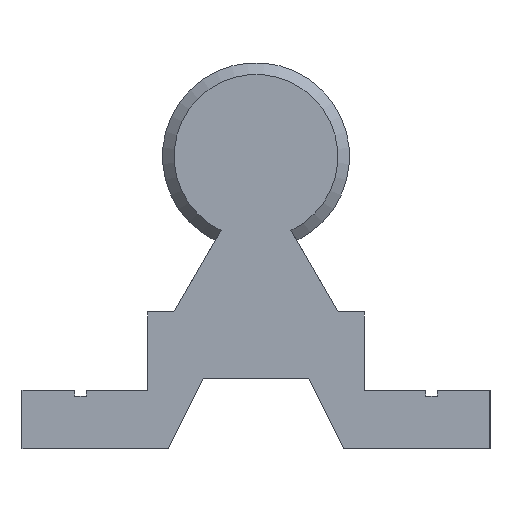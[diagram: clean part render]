
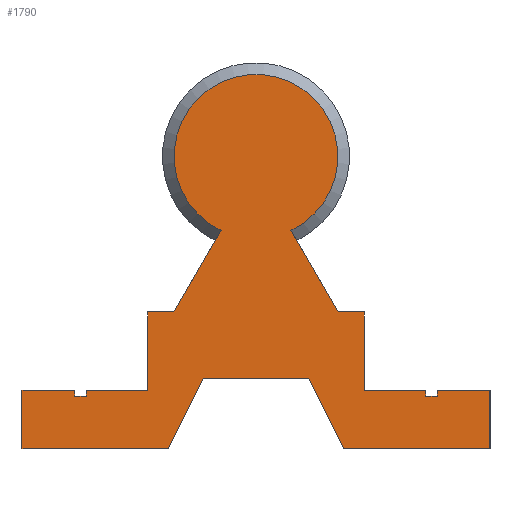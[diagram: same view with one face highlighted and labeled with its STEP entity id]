
A CAD part, left-side view. The second image highlights one B-rep face of the part: STEP entity #1790.
In plain terms, the highlighted planar face has unit normal (-1, 0, 0).
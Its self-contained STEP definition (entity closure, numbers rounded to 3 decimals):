
#40=LINE('',#2653,#186);
#41=LINE('',#2655,#187);
#42=LINE('',#2657,#188);
#43=LINE('',#2659,#189);
#44=LINE('',#2661,#190);
#45=LINE('',#2663,#191);
#46=LINE('',#2665,#192);
#47=LINE('',#2667,#193);
#48=LINE('',#2669,#194);
#49=LINE('',#2671,#195);
#50=LINE('',#2673,#196);
#51=LINE('',#2675,#197);
#52=LINE('',#2677,#198);
#53=LINE('',#2679,#199);
#54=LINE('',#2681,#200);
#55=LINE('',#2683,#201);
#56=LINE('',#2685,#202);
#57=LINE('',#2687,#203);
#58=LINE('',#2689,#204);
#59=LINE('',#2691,#205);
#60=LINE('',#2693,#206);
#61=LINE('',#2695,#207);
#62=LINE('',#2696,#208);
#186=VECTOR('',#2107,10.);
#187=VECTOR('',#2108,10.);
#188=VECTOR('',#2109,10.);
#189=VECTOR('',#2110,10.);
#190=VECTOR('',#2111,10.);
#191=VECTOR('',#2112,10.);
#192=VECTOR('',#2113,10.);
#193=VECTOR('',#2114,10.);
#194=VECTOR('',#2115,10.);
#195=VECTOR('',#2116,10.);
#196=VECTOR('',#2117,10.);
#197=VECTOR('',#2118,10.);
#198=VECTOR('',#2119,10.);
#199=VECTOR('',#2120,10.);
#200=VECTOR('',#2121,10.);
#201=VECTOR('',#2122,10.);
#202=VECTOR('',#2123,10.);
#203=VECTOR('',#2124,10.);
#204=VECTOR('',#2125,10.);
#205=VECTOR('',#2126,10.);
#206=VECTOR('',#2127,10.);
#207=VECTOR('',#2128,10.);
#208=VECTOR('',#2129,10.);
#332=PLANE('',#1904);
#394=FACE_OUTER_BOUND('',#486,.T.);
#486=EDGE_LOOP('',(#1203,#1204,#1205,#1206,#1207,#1208,#1209,#1210,#1211,
#1212,#1213,#1214,#1215,#1216,#1217,#1218,#1219,#1220,#1221,#1222,#1223,
#1224,#1225,#1226));
#589=CIRCLE('',#1902,7.);
#730=VERTEX_POINT('',#2640);
#731=VERTEX_POINT('',#2644);
#733=VERTEX_POINT('',#2652);
#734=VERTEX_POINT('',#2654);
#735=VERTEX_POINT('',#2656);
#736=VERTEX_POINT('',#2658);
#737=VERTEX_POINT('',#2660);
#738=VERTEX_POINT('',#2662);
#739=VERTEX_POINT('',#2664);
#740=VERTEX_POINT('',#2666);
#741=VERTEX_POINT('',#2668);
#742=VERTEX_POINT('',#2670);
#743=VERTEX_POINT('',#2672);
#744=VERTEX_POINT('',#2674);
#745=VERTEX_POINT('',#2676);
#746=VERTEX_POINT('',#2678);
#747=VERTEX_POINT('',#2680);
#748=VERTEX_POINT('',#2682);
#749=VERTEX_POINT('',#2684);
#750=VERTEX_POINT('',#2686);
#751=VERTEX_POINT('',#2688);
#752=VERTEX_POINT('',#2690);
#753=VERTEX_POINT('',#2692);
#754=VERTEX_POINT('',#2694);
#914=EDGE_CURVE('',#730,#731,#589,.T.);
#917=EDGE_CURVE('',#731,#733,#40,.T.);
#918=EDGE_CURVE('',#734,#730,#41,.T.);
#919=EDGE_CURVE('',#735,#734,#42,.T.);
#920=EDGE_CURVE('',#736,#735,#43,.T.);
#921=EDGE_CURVE('',#737,#736,#44,.T.);
#922=EDGE_CURVE('',#738,#737,#45,.T.);
#923=EDGE_CURVE('',#739,#738,#46,.T.);
#924=EDGE_CURVE('',#740,#739,#47,.T.);
#925=EDGE_CURVE('',#741,#740,#48,.T.);
#926=EDGE_CURVE('',#742,#741,#49,.T.);
#927=EDGE_CURVE('',#743,#742,#50,.T.);
#928=EDGE_CURVE('',#744,#743,#51,.T.);
#929=EDGE_CURVE('',#745,#744,#52,.T.);
#930=EDGE_CURVE('',#746,#745,#53,.T.);
#931=EDGE_CURVE('',#747,#746,#54,.T.);
#932=EDGE_CURVE('',#748,#747,#55,.T.);
#933=EDGE_CURVE('',#749,#748,#56,.T.);
#934=EDGE_CURVE('',#750,#749,#57,.T.);
#935=EDGE_CURVE('',#751,#750,#58,.T.);
#936=EDGE_CURVE('',#752,#751,#59,.T.);
#937=EDGE_CURVE('',#753,#752,#60,.T.);
#938=EDGE_CURVE('',#754,#753,#61,.T.);
#939=EDGE_CURVE('',#733,#754,#62,.T.);
#1203=ORIENTED_EDGE('',*,*,#917,.F.);
#1204=ORIENTED_EDGE('',*,*,#914,.F.);
#1205=ORIENTED_EDGE('',*,*,#918,.F.);
#1206=ORIENTED_EDGE('',*,*,#919,.F.);
#1207=ORIENTED_EDGE('',*,*,#920,.F.);
#1208=ORIENTED_EDGE('',*,*,#921,.F.);
#1209=ORIENTED_EDGE('',*,*,#922,.F.);
#1210=ORIENTED_EDGE('',*,*,#923,.F.);
#1211=ORIENTED_EDGE('',*,*,#924,.F.);
#1212=ORIENTED_EDGE('',*,*,#925,.F.);
#1213=ORIENTED_EDGE('',*,*,#926,.F.);
#1214=ORIENTED_EDGE('',*,*,#927,.F.);
#1215=ORIENTED_EDGE('',*,*,#928,.F.);
#1216=ORIENTED_EDGE('',*,*,#929,.F.);
#1217=ORIENTED_EDGE('',*,*,#930,.F.);
#1218=ORIENTED_EDGE('',*,*,#931,.F.);
#1219=ORIENTED_EDGE('',*,*,#932,.F.);
#1220=ORIENTED_EDGE('',*,*,#933,.F.);
#1221=ORIENTED_EDGE('',*,*,#934,.F.);
#1222=ORIENTED_EDGE('',*,*,#935,.F.);
#1223=ORIENTED_EDGE('',*,*,#936,.F.);
#1224=ORIENTED_EDGE('',*,*,#937,.F.);
#1225=ORIENTED_EDGE('',*,*,#938,.F.);
#1226=ORIENTED_EDGE('',*,*,#939,.F.);
#1790=ADVANCED_FACE('',(#394),#332,.F.);
#1902=AXIS2_PLACEMENT_3D('',#2645,#2101,#2102);
#1904=AXIS2_PLACEMENT_3D('',#2651,#2105,#2106);
#2101=DIRECTION('center_axis',(1.,0.,0.));
#2102=DIRECTION('ref_axis',(0.,1.,0.));
#2105=DIRECTION('center_axis',(1.,0.,0.));
#2106=DIRECTION('ref_axis',(0.,0.,-1.));
#2107=DIRECTION('',(0.,-0.5,-0.866));
#2108=DIRECTION('',(0.,-0.5,0.866));
#2109=DIRECTION('',(0.,-1.,0.));
#2110=DIRECTION('',(0.,0.,1.));
#2111=DIRECTION('',(0.,-1.,0.));
#2112=DIRECTION('',(0.,0.,1.));
#2113=DIRECTION('',(0.,-1.,0.));
#2114=DIRECTION('',(0.,0.,-1.));
#2115=DIRECTION('',(0.,-1.,0.));
#2116=DIRECTION('',(0.,0.,1.));
#2117=DIRECTION('',(0.,1.,0.));
#2118=DIRECTION('',(0.,0.447,-0.894));
#2119=DIRECTION('',(0.,1.,0.));
#2120=DIRECTION('',(0.,0.447,0.894));
#2121=DIRECTION('',(0.,1.,0.));
#2122=DIRECTION('',(0.,0.,-1.));
#2123=DIRECTION('',(0.,-1.,0.));
#2124=DIRECTION('',(0.,0.,1.));
#2125=DIRECTION('',(0.,-1.,0.));
#2126=DIRECTION('',(0.,0.,-1.));
#2127=DIRECTION('',(0.,-1.,0.));
#2128=DIRECTION('',(0.,0.,-1.));
#2129=DIRECTION('',(0.,-1.,0.));
#2640=CARTESIAN_POINT('',(0.,2.986,18.669));
#2644=CARTESIAN_POINT('',(0.,-2.986,18.669));
#2645=CARTESIAN_POINT('Origin',(0.,0.,25.));
#2651=CARTESIAN_POINT('Origin',(0.,0.,25.));
#2652=CARTESIAN_POINT('',(0.,-7.009,11.7));
#2653=CARTESIAN_POINT('',(0.,-1.492,21.255));
#2654=CARTESIAN_POINT('',(0.,7.009,11.7));
#2655=CARTESIAN_POINT('',(0.,3.253,18.205));
#2656=CARTESIAN_POINT('',(0.,9.25,11.7));
#2657=CARTESIAN_POINT('',(0.,9.25,11.7));
#2658=CARTESIAN_POINT('',(0.,9.25,5.));
#2659=CARTESIAN_POINT('',(0.,9.25,5.));
#2660=CARTESIAN_POINT('',(0.,14.5,5.));
#2661=CARTESIAN_POINT('',(0.,14.5,5.));
#2662=CARTESIAN_POINT('',(0.,14.5,4.5));
#2663=CARTESIAN_POINT('',(0.,14.5,4.5));
#2664=CARTESIAN_POINT('',(0.,15.5,4.5));
#2665=CARTESIAN_POINT('',(0.,15.5,4.5));
#2666=CARTESIAN_POINT('',(0.,15.5,5.));
#2667=CARTESIAN_POINT('',(0.,15.5,5.));
#2668=CARTESIAN_POINT('',(0.,20.,5.));
#2669=CARTESIAN_POINT('',(0.,20.,5.));
#2670=CARTESIAN_POINT('',(0.,20.,0.));
#2671=CARTESIAN_POINT('',(0.,20.,0.));
#2672=CARTESIAN_POINT('',(0.,7.5,0.));
#2673=CARTESIAN_POINT('',(0.,7.5,0.));
#2674=CARTESIAN_POINT('',(0.,4.5,6.));
#2675=CARTESIAN_POINT('',(0.,4.5,6.));
#2676=CARTESIAN_POINT('',(0.,-4.5,6.));
#2677=CARTESIAN_POINT('',(0.,-4.5,6.));
#2678=CARTESIAN_POINT('',(0.,-7.5,0.));
#2679=CARTESIAN_POINT('',(0.,-7.5,0.));
#2680=CARTESIAN_POINT('',(0.,-20.,0.));
#2681=CARTESIAN_POINT('',(0.,-20.,0.));
#2682=CARTESIAN_POINT('',(0.,-20.,5.));
#2683=CARTESIAN_POINT('',(0.,-20.,5.));
#2684=CARTESIAN_POINT('',(0.,-15.5,5.));
#2685=CARTESIAN_POINT('',(0.,-15.5,5.));
#2686=CARTESIAN_POINT('',(0.,-15.5,4.5));
#2687=CARTESIAN_POINT('',(0.,-15.5,4.5));
#2688=CARTESIAN_POINT('',(0.,-14.5,4.5));
#2689=CARTESIAN_POINT('',(0.,-14.5,4.5));
#2690=CARTESIAN_POINT('',(0.,-14.5,5.));
#2691=CARTESIAN_POINT('',(0.,-14.5,5.));
#2692=CARTESIAN_POINT('',(0.,-9.25,5.));
#2693=CARTESIAN_POINT('',(0.,-9.25,5.));
#2694=CARTESIAN_POINT('',(0.,-9.25,11.7));
#2695=CARTESIAN_POINT('',(0.,-9.25,11.7));
#2696=CARTESIAN_POINT('',(0.,-7.009,11.7));
